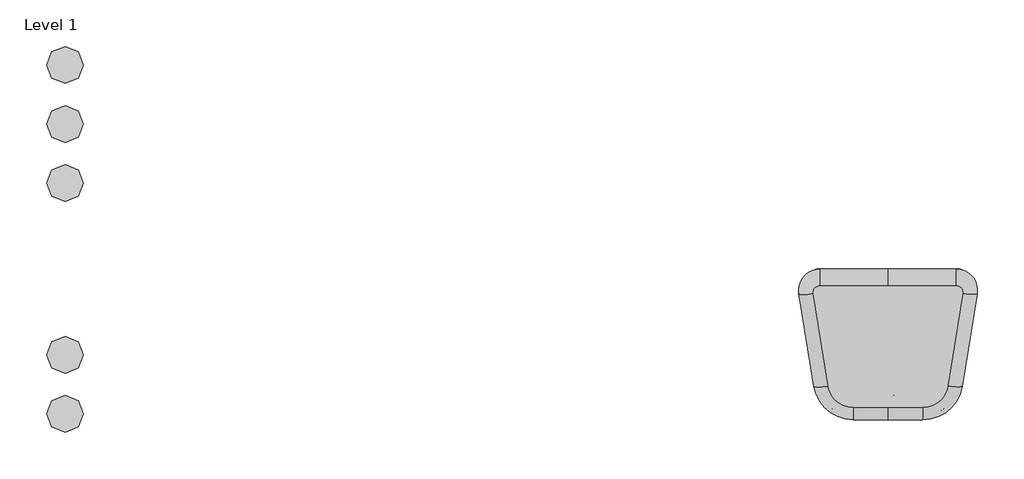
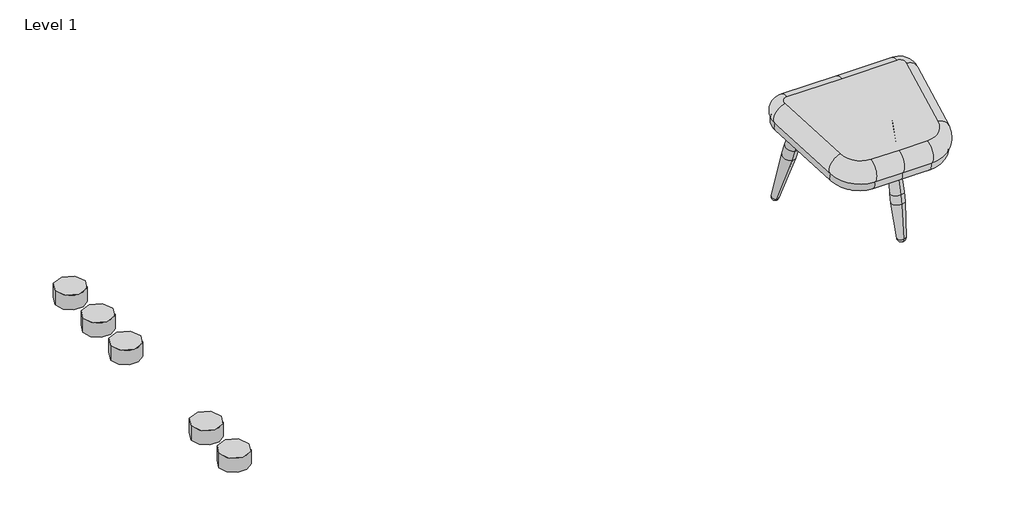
# One storey: 5 proxies, 1 furniture element.
"""IFC4 building model written with IfcOpenShell, lengths in millimetres."""

from ifc_helpers import new_model, si_unit, origin, place, context, project, spatial, transform, mapped, element, save
from components import materialmodel_materialmodel_02e69005, furniture_2552bbda

model = new_model("IFC4")

# Units and contexts
model_context = context("Model", 3, world=origin())
ifc_project = project(units=[si_unit("LENGTHUNIT", "METRE", prefix="MILLI")], contexts=[model_context])

# Site, building, storey
site = spatial("IfcSite", under=ifc_project)
building = spatial("IfcBuilding", under=site)
storey = spatial("IfcBuildingStorey", under=building, Name="Level 1", Elevation=0.0)

# Proxies
placement = place(None, origin())
materialmodel_materialmodel_shape = materialmodel_materialmodel_02e69005(model_context)
element("IfcBuildingElementProxy", 1, Name="MaterialModel : MaterialModel", ObjectType="MaterialModel : MaterialModel", at=placement, inside=storey, context=model_context, shape_type="MappedRepresentation", body=[
    mapped(materialmodel_materialmodel_shape, transform((-5467.1657896, 4153.699322, 0.0), x_axis=(1.0, 0.0, 0.0), y_axis=(0.0, 1.0, 0.0), z_axis=(0.0, 0.0, 1.0))),
])
element("IfcBuildingElementProxy", 2, Name="MaterialModel : MaterialModel", ObjectType="MaterialModel : MaterialModel", at=placement, inside=storey, context=model_context, shape_type="MappedRepresentation", body=[
    mapped(materialmodel_materialmodel_shape, transform((-5467.1657896, 3993.699322, 0.0), x_axis=(1.0, 0.0, 0.0), y_axis=(0.0, 1.0, 0.0), z_axis=(0.0, 0.0, 1.0))),
])
element("IfcBuildingElementProxy", 3, Name="MaterialModel : MaterialModel", ObjectType="MaterialModel : MaterialModel", at=placement, inside=storey, context=model_context, shape_type="MappedRepresentation", body=[
    mapped(materialmodel_materialmodel_shape, transform((-5467.1657896, 4779.5048486, 0.0), x_axis=(1.0, 0.0, 0.0), y_axis=(0.0, 1.0, 0.0), z_axis=(0.0, 0.0, 1.0))),
])
element("IfcBuildingElementProxy", 4, Name="MaterialModel : MaterialModel", ObjectType="MaterialModel : MaterialModel", at=placement, inside=storey, context=model_context, shape_type="MappedRepresentation", body=[
    mapped(materialmodel_materialmodel_shape, transform((-5467.1657896, 4939.5048486, 0.0), x_axis=(1.0, 0.0, 0.0), y_axis=(0.0, 1.0, 0.0), z_axis=(0.0, 0.0, 1.0))),
])
element("IfcBuildingElementProxy", 5, Name="MaterialModel : MaterialModel", ObjectType="MaterialModel : MaterialModel", at=placement, inside=storey, context=model_context, shape_type="MappedRepresentation", body=[
    mapped(materialmodel_materialmodel_shape, transform((-5467.1657896, 4619.5048486, 0.0), x_axis=(1.0, 0.0, 0.0), y_axis=(0.0, 1.0, 0.0), z_axis=(0.0, 0.0, 1.0))),
])

# Furniture
furniture_shape = furniture_2552bbda(model_context)
element("IfcFurniture", 6, ObjectType="Audo Copenhagen - Brdr P Collection - Oda - Ottoman : Audo Copenhagen - Brdr P Collection - Oda - Ottoman", at=placement, inside=storey, context=model_context, shape_type="MappedRepresentation", body=[
    mapped(furniture_shape, transform((-3238.2209171, 4183.6108895, 0.0), x_axis=(1.0, 0.0, 0.0), y_axis=(0.0, 1.0, 0.0), z_axis=(0.0, 0.0, 1.0))),
])

save(model, "model.ifc")
